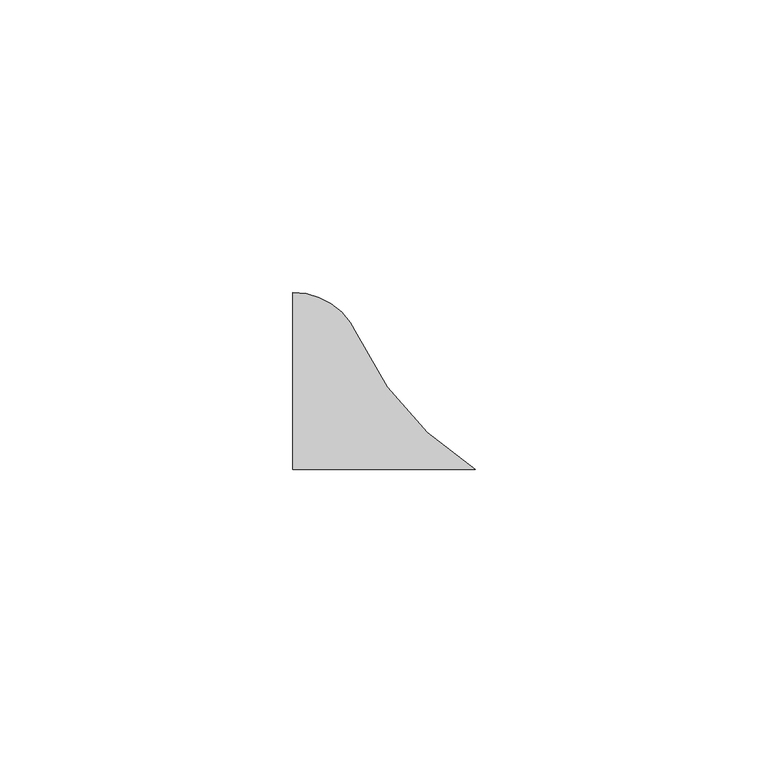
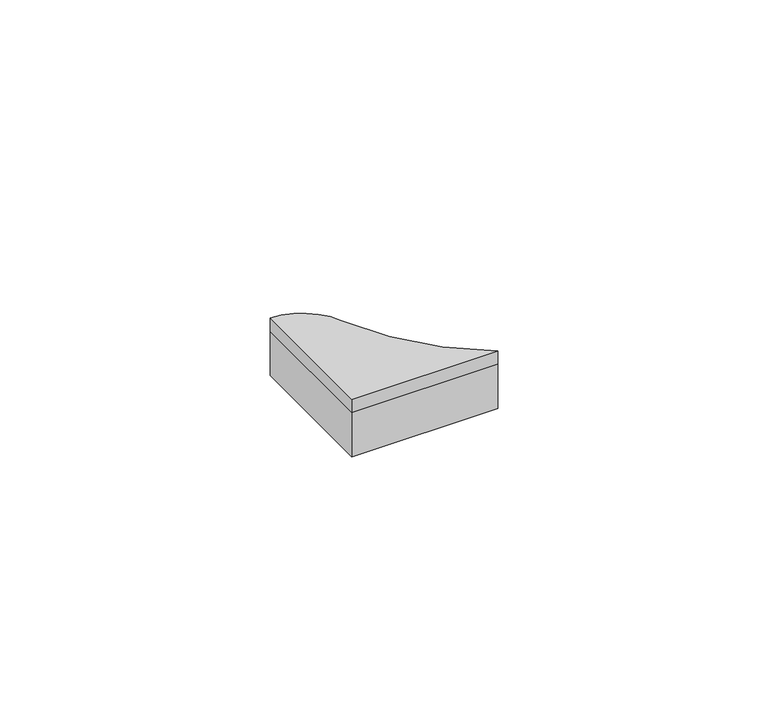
"""IFC4 building model written with IfcOpenShell, lengths in millimetres: proxy geometry, FilzFelt_Fish_Block : Fish Block."""

from ifc_helpers import new_model, si_unit, point, frame, frame_2d, origin, origin_with_axes, place, context, project, spatial, polyline, circle_curve, trimmed, segment, composite_curve, outline, extrude, source, transform, mapped, element, save


def specialty_equipment_c66fb18b(model_context):
    return source(origin(), model_context, "Body", "SweptSolid", [
        extrude(outline(composite_curve([segment(trimmed(circle_curve(frame_2d((57.9263497, 150.1559416)), 51.2968574), [point((11.0103348, 129.4133496))], [point((31.2619065, 106.3338576))], True, "CARTESIAN"), True, "CONTINUOUS"), segment(polyline([(31.2619065, 106.3338576), (0.0, 106.3338576), (0.0, 136.5838795)]), True, "CONTINUOUS"), segment(trimmed(circle_curve(frame_2d((0.0, 124.5454408)), 12.0384388), [point((0.0, 136.5838795))], [point((11.0103348, 129.4133496))], False, "CARTESIAN"), True, "CONTINUOUS")], self_intersect=False)), frame((0.0, 0.0, 10.0210937), z_axis=(0.0, 0.0, 1.0), x_axis=(1.0, 0.0, 0.0)), (0.0, 0.0, 1.0), 2.9765625),
        extrude(outline(composite_curve([segment(trimmed(circle_curve(frame_2d((57.9263497, 150.1559416)), 51.2968574), [point((11.0103348, 129.4133496))], [point((31.2619065, 106.3338576))], True, "CARTESIAN"), True, "CONTINUOUS"), segment(polyline([(31.2619065, 106.3338576), (0.0, 106.3338576), (0.0, 136.5838795)]), True, "CONTINUOUS"), segment(trimmed(circle_curve(frame_2d((0.0, 124.5454408)), 12.0384388), [point((0.0, 136.5838795))], [point((11.0103348, 129.4133496))], False, "CARTESIAN"), True, "CONTINUOUS")], self_intersect=False)), origin_with_axes(), (0.0, 0.0, 1.0), 10.0210938),
    ])


if __name__ == "__main__":
    model = new_model("IFC4")
    model_context = context("Model", 3, world=origin())
    ifc_project = project(units=[si_unit("LENGTHUNIT", "METRE", prefix="MILLI")], contexts=[model_context])
    site = spatial("IfcSite", under=ifc_project)
    building = spatial("IfcBuilding", under=site)
    placement = place(None, origin())
    specialty_equipment_shape = specialty_equipment_c66fb18b(model_context)
    element("IfcBuildingElementProxy", 1, Name="FilzFelt_Fish_Block : Fish Block", ObjectType="FilzFelt_Fish_Block : Fish Block", at=placement, inside=building, context=model_context, shape_type="MappedRepresentation", body=[
        mapped(specialty_equipment_shape, transform((0.0, 0.0, 0.0), x_axis=(1.0, 0.0, 0.0), y_axis=(0.0, 1.0, 0.0), z_axis=(0.0, 0.0, 1.0))),
    ])
    save(model, "model.ifc")
